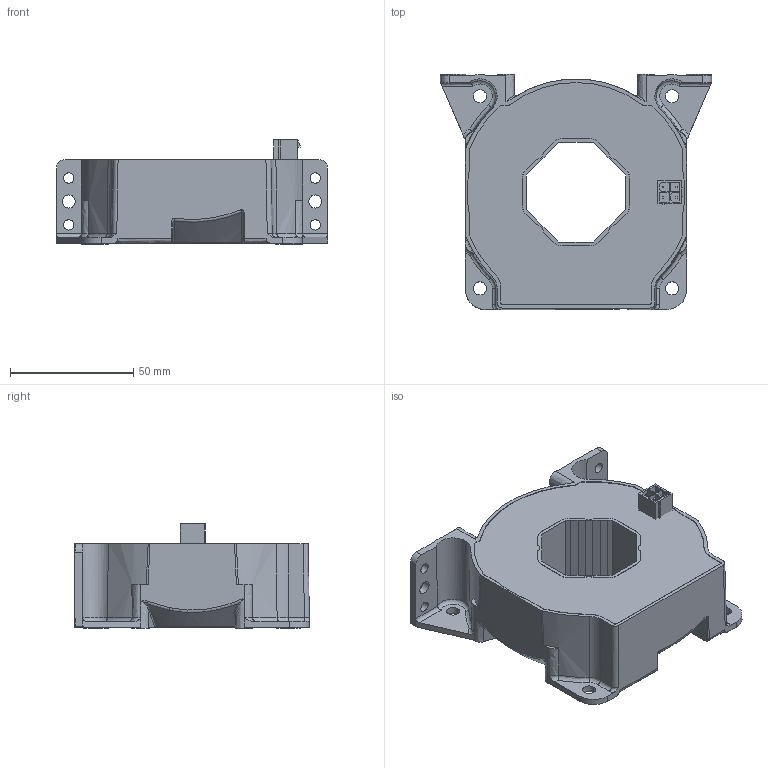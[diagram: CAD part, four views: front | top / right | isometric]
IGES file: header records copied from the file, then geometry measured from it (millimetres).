
Start section: Elysium IGES Interface
Global section: file name: \\Gva50\sd-data\Etudes\GVu\BLACK BOX\LF 1005-S\LF 1005-S_SP22_Blackbox\LF 1005-S_SP22_Blackbox.igs; native system: SolidDesigner 16.00A  16-Aug-2008; preprocessor: CoCreate IGES_3D V2.2; author: Unknown; organization: Unknown; date: 20090520.142822; units: millimetre
Bounding box: 110 x 95.39 x 42.3 mm (x, y, z)
Volume: 202976 mm3; surface area: 37891.9 mm2
Topology: 2 solids, 2 shells, 1170 faces, 3114 edges, 2030 vertices
Faces by surface type: bspline 1170
